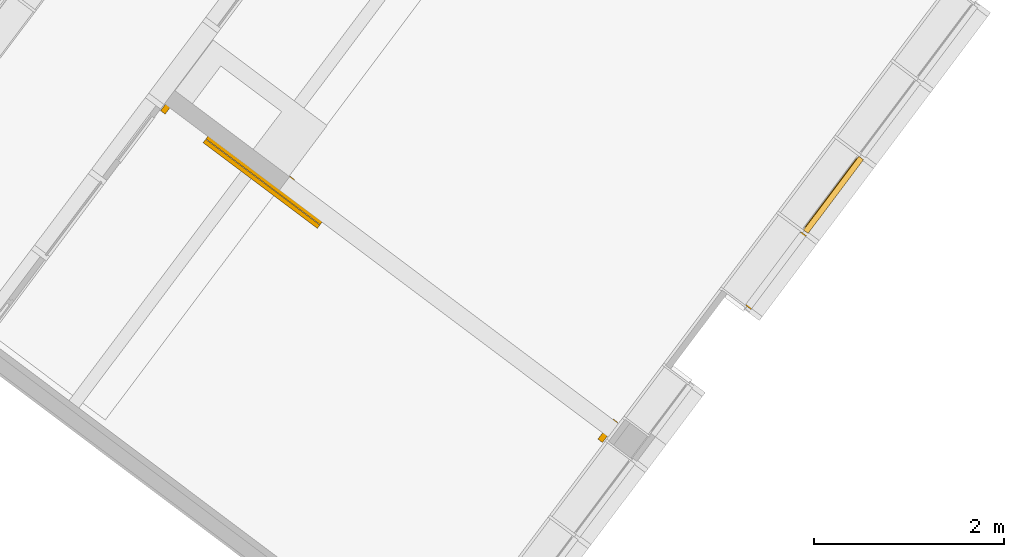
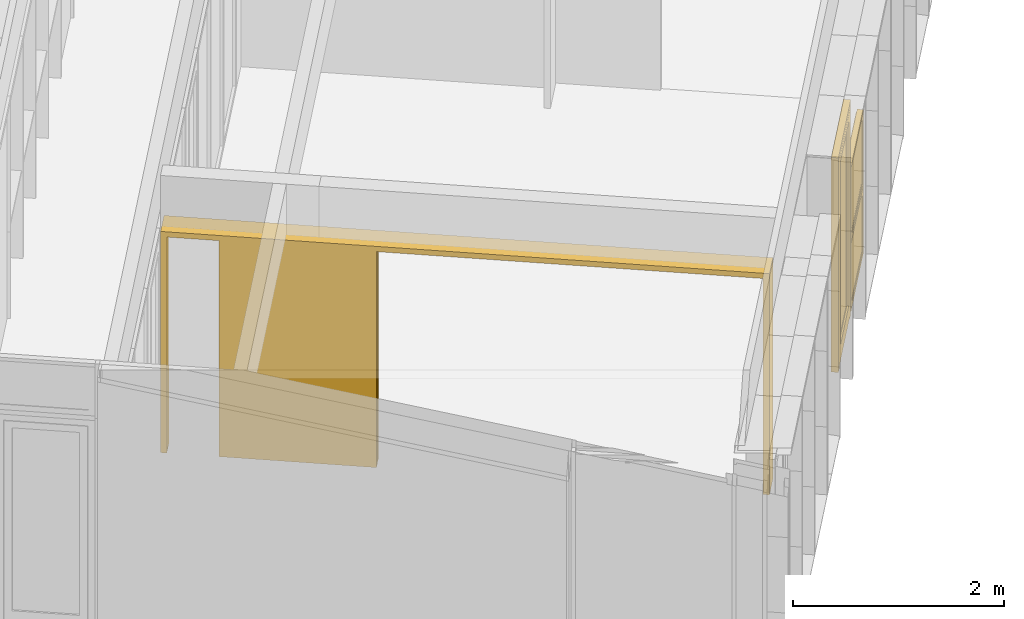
# One storey, part 187 of 243: 2 doors, 2 windows, 1 element without a shape of its own.
"""IFC2X3 building model written with IfcOpenShell, lengths in metres."""

from ifc_helpers import new_model, entity, si_unit, converted_unit, derived_unit, direction, frame, frame_2d, origin, origin_2d_with_axis, place, context, subcontext, project, spatial, polyline, rectangle, outline, extrude, faceted_brep, source, transform, mapped, material, material_list, type_object, type_shapes, element, aggregate, save


model = new_model("IFC2X3")

# Units and contexts
model_context = context("Model", 3, precision=1e-05, world=origin(), true_north=direction((6.123031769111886e-17, 1.0)))
body_context = subcontext(model_context, "Body", "Model", "MODEL_VIEW")
ifc_project = project(units=[si_unit("LENGTHUNIT", "METRE"), si_unit("AREAUNIT", "SQUARE_METRE"), si_unit("VOLUMEUNIT", "CUBIC_METRE"), converted_unit("PLANEANGLEUNIT", "DEGREE", entity("IfcRatioMeasure", 0.017453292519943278), si_unit("PLANEANGLEUNIT", "RADIAN"), dimensions=[0, 0, 0, 0, 0, 0, 0]), si_unit("MASSUNIT", "GRAM", prefix="KILO"), derived_unit("MASSDENSITYUNIT", [(si_unit("MASSUNIT", "GRAM", prefix="KILO"), 1), (si_unit("LENGTHUNIT", "METRE"), -3)]), derived_unit("IONCONCENTRATIONUNIT", [(si_unit("MASSUNIT", "GRAM", prefix="KILO"), 1), (si_unit("LENGTHUNIT", "METRE"), -3)]), derived_unit("MOMENTOFINERTIAUNIT", [(si_unit("LENGTHUNIT", "METRE"), 4)]), si_unit("TIMEUNIT", "SECOND"), si_unit("FREQUENCYUNIT", "HERTZ"), si_unit("THERMODYNAMICTEMPERATUREUNIT", "DEGREE_CELSIUS"), derived_unit("THERMALTRANSMITTANCEUNIT", [(si_unit("MASSUNIT", "GRAM", prefix="KILO"), 1), (si_unit("THERMODYNAMICTEMPERATUREUNIT", "KELVIN"), -1), (si_unit("TIMEUNIT", "SECOND"), -3)]), derived_unit("THERMALCONDUCTANCEUNIT", [(si_unit("MASSUNIT", "GRAM", prefix="KILO"), 1), (si_unit("THERMODYNAMICTEMPERATUREUNIT", "KELVIN"), -1), (si_unit("TIMEUNIT", "SECOND"), -3), (si_unit("LENGTHUNIT", "METRE"), 1)]), derived_unit("VOLUMETRICFLOWRATEUNIT", [(si_unit("LENGTHUNIT", "METRE"), 3), (si_unit("TIMEUNIT", "SECOND"), -1)]), derived_unit("MASSFLOWRATEUNIT", [(si_unit("MASSUNIT", "GRAM", prefix="KILO"), 1), (si_unit("TIMEUNIT", "SECOND"), -1)]), derived_unit("ROTATIONALFREQUENCYUNIT", [(si_unit("TIMEUNIT", "SECOND"), -1)]), si_unit("ELECTRICCURRENTUNIT", "AMPERE"), si_unit("ELECTRICVOLTAGEUNIT", "VOLT"), si_unit("POWERUNIT", "WATT"), si_unit("FORCEUNIT", "NEWTON", prefix="KILO"), si_unit("ILLUMINANCEUNIT", "LUX"), si_unit("LUMINOUSFLUXUNIT", "LUMEN"), si_unit("LUMINOUSINTENSITYUNIT", "CANDELA"), derived_unit("USERDEFINED", [(si_unit("MASSUNIT", "GRAM", prefix="KILO"), -1), (si_unit("LENGTHUNIT", "METRE"), -2), (si_unit("TIMEUNIT", "SECOND"), 3), (si_unit("LUMINOUSFLUXUNIT", "LUMEN"), 1)]), derived_unit("USERDEFINED", [(si_unit("MASSUNIT", "GRAM", prefix="KILO"), 1), (si_unit("TIMEUNIT", "SECOND"), -3), (si_unit("LENGTHUNIT", "METRE"), 3), (si_unit("ELECTRICCURRENTUNIT", "AMPERE"), -2)]), derived_unit("SOUNDPOWERUNIT", [(si_unit("MASSUNIT", "GRAM", prefix="KILO"), 1), (si_unit("TIMEUNIT", "SECOND"), -3), (si_unit("LENGTHUNIT", "METRE"), 2)]), derived_unit("SOUNDPRESSUREUNIT", [(si_unit("MASSUNIT", "GRAM", prefix="KILO"), 1), (si_unit("LENGTHUNIT", "METRE"), -1), (si_unit("TIMEUNIT", "SECOND"), -2)]), derived_unit("LINEARVELOCITYUNIT", [(si_unit("LENGTHUNIT", "METRE"), 1), (si_unit("TIMEUNIT", "SECOND"), -1)]), si_unit("PRESSUREUNIT", "PASCAL"), derived_unit("USERDEFINED", [(si_unit("MASSUNIT", "GRAM", prefix="KILO"), 1), (si_unit("LENGTHUNIT", "METRE"), -2), (si_unit("TIMEUNIT", "SECOND"), -2)]), derived_unit("LINEARFORCEUNIT", [(si_unit("MASSUNIT", "GRAM", prefix="KILO"), 1), (si_unit("TIMEUNIT", "SECOND"), -2)]), derived_unit("PLANARFORCEUNIT", [(si_unit("MASSUNIT", "GRAM", prefix="KILO"), 1), (si_unit("LENGTHUNIT", "METRE"), -1), (si_unit("TIMEUNIT", "SECOND"), -2)]), derived_unit("SPECIFICHEATCAPACITYUNIT", [(si_unit("THERMODYNAMICTEMPERATUREUNIT", "KELVIN"), -1), (si_unit("LENGTHUNIT", "METRE"), 2), (si_unit("TIMEUNIT", "SECOND"), -2)]), derived_unit("HEATINGVALUEUNIT", [(si_unit("LENGTHUNIT", "METRE"), 2), (si_unit("TIMEUNIT", "SECOND"), -2)]), derived_unit("VAPORPERMEABILITYUNIT", [(si_unit("LENGTHUNIT", "METRE"), -1), (si_unit("TIMEUNIT", "SECOND"), 1)]), derived_unit("DYNAMICVISCOSITYUNIT", [(si_unit("MASSUNIT", "GRAM", prefix="KILO"), 1), (si_unit("TIMEUNIT", "SECOND"), -1), (si_unit("LENGTHUNIT", "METRE"), -1)]), derived_unit("THERMALEXPANSIONCOEFFICIENTUNIT", [(si_unit("THERMODYNAMICTEMPERATUREUNIT", "KELVIN"), -1)]), derived_unit("MODULUSOFELASTICITYUNIT", [(si_unit("MASSUNIT", "GRAM", prefix="KILO"), 1), (si_unit("LENGTHUNIT", "METRE"), -1), (si_unit("TIMEUNIT", "SECOND"), -2)]), derived_unit("ISOTHERMALMOISTURECAPACITYUNIT", [(si_unit("LENGTHUNIT", "METRE"), 3), (si_unit("MASSUNIT", "GRAM", prefix="KILO"), -1)]), derived_unit("MOISTUREDIFFUSIVITYUNIT", [(si_unit("TIMEUNIT", "SECOND"), -1), (si_unit("LENGTHUNIT", "METRE"), 2)])], contexts=[model_context])

# Site, building, storey
site_placement = place(None, frame((0.0, 0.0, 235.0), z_axis=(0.0, 0.0, 1.0), x_axis=(-0.7996477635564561, 0.6004693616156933, 0.0)))
site = spatial("IfcSite", under=ifc_project, at=site_placement, Name="Default", CompositionType="ELEMENT")
building_placement = place(site_placement, origin())
building = spatial("IfcBuilding", under=site, at=building_placement, CompositionType="ELEMENT")
storey_placement = place(building_placement, origin())
storey = spatial("IfcBuildingStorey", under=building, at=storey_placement, Name="P0- Escola", CompositionType="ELEMENT", Elevation=0.0)

# Curtain wall, windows, door
curtain_wall_type = type_object("IfcCurtainWallType", Name="Muro cortina:MC- EXT- MC2", PredefinedType="NOTDEFINED")
curtain_wall_placement = place(storey_placement, origin())
curtain_wall = element("IfcCurtainWall", 1, at=curtain_wall_placement, inside=storey, type_object=curtain_wall_type, Name="Muro cortina:MC- EXT- MC2", ObjectType="Muro cortina:MC- EXT- MC2")
ifc_material_1 = material(Name="_Vidre")
ifc_material_2 = material(Name="_Alumini- T1- Perfil")
ifc_material_list_1 = material_list([ifc_material_1, ifc_material_2])
window_style_1 = type_object("IfcWindowStyle", Name="MC- Alu- Conjunt vidre fix- 62x60 cm:MC- Alu- Conjunt vidre fix- 62x60 cm", ConstructionType="NOTDEFINED", OperationType="NOTDEFINED", ParameterTakesPrecedence=False, Sizeable=False, material=ifc_material_list_1)
shared_shape_1 = source(origin(), body_context, "Body", "Brep", [
    faceted_brep([(0.4361932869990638, -0.007600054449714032, 0.048806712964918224), (0.4361932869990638, -0.03160022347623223, 0.048806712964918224), (-0.4361932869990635, -0.03160022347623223, 0.048806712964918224), (-0.4361932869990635, -0.007600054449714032, 0.048806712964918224), (0.4361932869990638, -0.007600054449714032, 0.7387000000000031), (-0.4361932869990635, -0.007600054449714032, 0.7387000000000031), (-0.4361932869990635, -0.03160022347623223, 0.7387000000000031), (0.4361932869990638, -0.03160022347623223, 0.7387000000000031)], [[[0, 1, 2, 3]], [[4, 0, 3, 5]], [[5, 3, 2, 6]], [[6, 2, 1, 7]], [[7, 1, 0, 4]], [[4, 5, 6, 7]]]),
    faceted_brep([(0.48499999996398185, -0.05999999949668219, 0.7877000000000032), (0.48499999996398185, -0.05999999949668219, 0.0), (0.48499999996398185, 0.0, 0.0), (0.48499999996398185, 0.0, 0.787700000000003), (-0.48499999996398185, 0.0, 0.7877000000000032), (-0.48499999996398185, 0.0, 0.0), (0.4221931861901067, 0.0, 0.7248931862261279), (-0.42219318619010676, 0.0, 0.724893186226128), (-0.4221931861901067, 0.0, 0.0628068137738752), (0.4221931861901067, 0.0, 0.06280681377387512), (-0.48499999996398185, -0.05999999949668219, 0.0), (-0.48499999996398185, -0.05999999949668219, 0.7877000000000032), (-0.42219603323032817, -0.05999999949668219, 0.7248960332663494), (0.42219603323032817, -0.05999999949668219, 0.7248960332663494), (0.42219603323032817, -0.05999999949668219, 0.0628039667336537), (-0.42219603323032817, -0.05999999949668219, 0.0628039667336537), (0.4221960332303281, -0.03160022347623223, 0.7248960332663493), (0.42219603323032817, -0.03160022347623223, 0.0628039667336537), (-0.42219603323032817, -0.03160022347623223, 0.06280396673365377), (-0.42219603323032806, -0.03160022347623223, 0.7248960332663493), (-0.43619328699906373, -0.03160022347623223, 0.738893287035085), (0.43619328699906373, -0.03160022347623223, 0.738893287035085), (0.43619328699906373, -0.03160022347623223, 0.048806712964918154), (-0.43619328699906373, -0.03160022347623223, 0.04880671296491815), (0.43619328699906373, -0.007600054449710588, 0.738893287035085), (0.43619328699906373, -0.007600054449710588, 0.04880671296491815), (-0.43619328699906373, -0.007600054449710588, 0.048806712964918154), (-0.43619328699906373, -0.007600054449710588, 0.738893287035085), (-0.42219318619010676, -0.007600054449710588, 0.724893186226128), (0.42219318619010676, -0.007600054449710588, 0.724893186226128), (0.42219318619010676, -0.007600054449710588, 0.06280681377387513), (-0.42219318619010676, -0.007600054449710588, 0.06280681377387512)], [[[0, 1, 2, 3]], [[4, 3, 2, 5], [6, 7, 8, 9]], [[1, 10, 5, 2]], [[0, 11, 10, 1], [12, 13, 14, 15]], [[16, 17, 14, 13]], [[17, 18, 15, 14]], [[16, 19, 18, 17], [20, 21, 22, 23]], [[24, 25, 22, 21]], [[25, 26, 23, 22]], [[24, 27, 26, 25], [28, 29, 30, 31]], [[6, 9, 30, 29]], [[9, 8, 31, 30]], [[10, 11, 4, 5]], [[18, 19, 12, 15]], [[26, 27, 20, 23]], [[8, 7, 28, 31]], [[11, 0, 3, 4]], [[19, 16, 13, 12]], [[27, 24, 21, 20]], [[7, 6, 29, 28]]], outer=[[True], [True, False], [True], [True, False], [True], [True], [False, True], [True], [True], [True, False], [True], [True], [True], [True], [True], [True], [True], [True], [True], [True]]),
])
type_shapes(window_style_1, [shared_shape_1])
window_1_placement = place(curtain_wall_placement, frame((53.74514768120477, -26.915191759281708, 0.03229999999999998), z_axis=(0.0, 0.0, 1.0), x_axis=(0.0, 1.0, 0.0)))
window_1 = element("IfcWindow", 2, at=window_1_placement, type_object=window_style_1, material=ifc_material_list_1, Name="MC- Alu- Conjunt vidre fix- 62x60 cm:MC- Alu- Conjunt vidre fix- 62x60 cm", ObjectType="MC- Alu- Conjunt vidre fix- 62x60 cm:MC- Alu- Conjunt vidre fix- 62x60 cm", OverallHeight=0.7877000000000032, OverallWidth=0.9699999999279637, context=body_context, shape_type="MappedRepresentation", body=[
    mapped(shared_shape_1, transform((0.0, 0.0, 0.0), scale=1.0)),
])
ifc_material_list_2 = material_list([ifc_material_2, ifc_material_1])
door_style_1 = type_object("IfcDoorStyle", Name="MC- Alu- Conjunt porta- 70x60 cm- +15cm- obertura int:MC- Alu- Conjunt porta- 70x60 cm- +15cm- obertura int", ConstructionType="NOTDEFINED", OperationType="NOTDEFINED", ParameterTakesPrecedence=False, Sizeable=False, material=ifc_material_list_2)
shared_shape_2 = source(origin(), body_context, "Body", "Brep", [
    faceted_brep([(0.411699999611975, 0.0, 0.024000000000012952), (0.411699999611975, -0.0656997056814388, 0.024000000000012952), (-0.41169999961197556, -0.06569970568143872, 0.024000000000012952), (-0.41169999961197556, 0.0, 0.024000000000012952), (0.41169999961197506, -0.0656997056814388, 2.410449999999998), (0.41169999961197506, 0.0, 2.410449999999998), (-0.41169999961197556, -0.06569970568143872, 2.410449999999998), (-0.4356999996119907, -0.06569970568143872, 0.0), (-0.4356999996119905, -0.06569970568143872, 2.4344500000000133), (0.4356999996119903, -0.06569970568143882, 2.4344500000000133), (0.4356999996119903, -0.0656997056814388, 0.0), (-0.41169999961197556, 0.0, 2.410449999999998), (0.33509999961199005, 0.0, 2.333850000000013), (-0.33509999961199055, 0.0, 2.3338500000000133), (-0.33509999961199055, 0.0, 0.20400000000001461), (0.33509999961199, 0.0, 0.20400000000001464), (-0.4356999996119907, -0.06999970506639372, 2.4344500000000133), (-0.4356999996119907, -0.0699997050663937, 0.0), (0.4356999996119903, -0.06999970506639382, 0.0), (0.43569999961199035, -0.06999970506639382, 2.4344500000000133), (-0.33509999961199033, -0.06999970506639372, 2.333850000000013), (0.33509999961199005, -0.06999970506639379, 2.333850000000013), (0.33509999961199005, -0.0699997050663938, 0.20400000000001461), (-0.33509999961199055, -0.06999970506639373, 0.20400000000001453), (-0.3350999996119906, -0.06449970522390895, 2.333850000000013), (-0.3350999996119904, -0.06449970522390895, 0.20400000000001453), (0.33509999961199, -0.06449970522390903, 0.20400000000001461), (0.33509999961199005, -0.06449970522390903, 2.333850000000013), (-0.36010000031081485, -0.06449970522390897, 2.3588500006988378), (0.3601000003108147, -0.06449970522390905, 2.3588500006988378), (0.3601000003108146, -0.06449970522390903, 0.17899999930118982), (-0.36010000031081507, -0.06449970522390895, 0.17899999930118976), (-0.3601000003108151, -0.018999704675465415, 2.3588500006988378), (-0.36010000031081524, -0.01899970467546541, 0.17899999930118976), (0.36010000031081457, -0.01899970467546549, 0.17899999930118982), (0.36010000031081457, -0.01899970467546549, 2.3588500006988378), (-0.33509999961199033, -0.018999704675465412, 2.333850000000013), (0.33509999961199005, -0.018999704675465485, 2.333850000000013), (0.33509999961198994, -0.01899970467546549, 0.20400000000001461), (-0.33509999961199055, -0.018999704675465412, 0.20400000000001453)], [[[0, 1, 2, 3]], [[4, 1, 0, 5]], [[2, 1, 4, 6], [7, 8, 9, 10]], [[2, 6, 11, 3]], [[12, 13, 14, 15], [11, 5, 0, 3]], [[16, 8, 7, 17]], [[10, 18, 17, 7]], [[18, 19, 16, 17], [20, 21, 22, 23]], [[24, 20, 23, 25]], [[23, 22, 26, 25]], [[27, 24, 25, 26], [28, 29, 30, 31]], [[32, 28, 31, 33]], [[33, 31, 30, 34]], [[35, 32, 33, 34], [36, 37, 38, 39]], [[13, 36, 39, 14]], [[39, 38, 15, 14]], [[9, 19, 18, 10]], [[21, 27, 26, 22]], [[29, 35, 34, 30]], [[37, 12, 15, 38]], [[19, 9, 8, 16]], [[27, 21, 20, 24]], [[35, 29, 28, 32]], [[12, 37, 36, 13]], [[4, 5, 11, 6]]], outer=[[True], [True], [False, True], [True], [False, True], [True], [True], [True, False], [True], [True], [False, True], [True], [True], [True, False], [True], [True], [True], [True], [True], [True], [True], [True], [True], [True], [True]]),
    faceted_brep([(-0.36010000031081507, -0.06089980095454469, 0.17899999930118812), (-0.36010000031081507, -0.02889980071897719, 0.17899999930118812), (0.3601000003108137, -0.028899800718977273, 0.17899999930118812), (0.3601000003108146, -0.06089980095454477, 0.17899999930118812), (-0.36010000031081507, -0.06089980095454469, 2.3588500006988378), (-0.36010000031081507, -0.028899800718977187, 2.3588500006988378), (0.3601000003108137, -0.028899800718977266, 2.3588500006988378), (0.3601000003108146, -0.06089980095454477, 2.3588500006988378)], [[[0, 1, 2, 3]], [[4, 5, 1, 0]], [[5, 6, 2, 1]], [[6, 7, 3, 2]], [[7, 4, 0, 3]], [[4, 7, 6, 5]]]),
    faceted_brep([(0.4849999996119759, -0.06999999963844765, 0.0), (0.44369999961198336, -0.06999999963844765, 0.0), (0.44369999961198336, -0.059699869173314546, 0.0), (0.4331999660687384, -0.059699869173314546, 0.0), (0.4331999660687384, -0.008800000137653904, 0.0), (0.4176999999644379, -0.008800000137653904, 0.0), (0.4176999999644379, 0.0, 0.0), (0.4849999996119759, 0.0, 0.0), (0.4849999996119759, -0.06999999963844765, 2.4837499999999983), (-0.4849999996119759, -0.06999999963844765, 2.4837499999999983), (-0.4849999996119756, -0.06999999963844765, 0.0), (-0.4436999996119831, -0.06999999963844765, 0.0), (-0.4436999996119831, -0.06999999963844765, 2.442450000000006), (0.44369999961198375, -0.06999999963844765, 2.4424500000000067), (0.44369999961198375, -0.059699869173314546, 2.4424500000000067), (-0.44369999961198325, -0.059699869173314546, 2.442450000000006), (-0.44369999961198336, -0.059699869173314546, 0.0), (-0.4331999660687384, -0.059699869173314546, 0.0), (-0.4331999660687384, -0.059699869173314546, 2.4319499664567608), (0.4331999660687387, -0.059699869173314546, 2.431949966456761), (0.4331999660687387, -0.008800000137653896, 2.431949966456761), (-0.4331999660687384, -0.008800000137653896, 2.4319499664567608), (-0.4331999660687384, -0.008800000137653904, 0.0), (-0.4176999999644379, -0.008800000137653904, 0.0), (-0.4176999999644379, -0.008800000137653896, 2.4164500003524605), (0.417699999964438, -0.008800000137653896, 2.4164500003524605), (0.417699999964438, 0.0, 2.4164500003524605), (-0.4176999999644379, 0.0, 2.4164500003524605), (-0.4176999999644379, 0.0, 0.0), (-0.4849999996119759, 0.0, 0.0), (-0.4849999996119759, 0.0, 2.4837499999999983), (0.48499999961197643, 0.0, 2.4837499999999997)], [[[0, 1, 2, 3, 4, 5, 6, 7]], [[1, 0, 8, 9, 10, 11, 12, 13]], [[2, 1, 13, 14]], [[3, 2, 14, 15, 16, 17, 18, 19]], [[4, 3, 19, 20]], [[5, 4, 20, 21, 22, 23, 24, 25]], [[6, 5, 25, 26]], [[7, 6, 26, 27, 28, 29, 30, 31]], [[0, 7, 31, 8]], [[10, 29, 28, 23, 22, 17, 16, 11]], [[9, 30, 29, 10]], [[27, 24, 23, 28]], [[21, 18, 17, 22]], [[15, 12, 11, 16]], [[14, 13, 12, 15]], [[20, 19, 18, 21]], [[26, 25, 24, 27]], [[8, 31, 30, 9]]]),
])
type_shapes(door_style_1, [shared_shape_2])
door_1_placement = place(curtain_wall_placement, frame((53.74514768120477, -25.91519175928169, 0.020000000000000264), z_axis=(0.0, 0.0, 1.0), x_axis=(0.0, 1.0, 0.0)))
door_1 = element("IfcDoor", 3, at=door_1_placement, type_object=door_style_1, material=ifc_material_list_2, Name="MC- Alu- Conjunt porta- 70x60 cm- +15cm- obertura int:MC- Alu- Conjunt porta- 70x60 cm- +15cm- obertura int", ObjectType="MC- Alu- Conjunt porta- 70x60 cm- +15cm- obertura int:MC- Alu- Conjunt porta- 70x60 cm- +15cm- obertura int", OverallHeight=2.483750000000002, OverallWidth=0.9699999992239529, context=body_context, shape_type="MappedRepresentation", body=[
    mapped(shared_shape_2, transform((0.0, 0.0, 0.0), scale=1.0)),
])
window_style_2 = type_object("IfcWindowStyle", Name="MC- Alu- Conjunt finestra basculant- 68x68 cm:MC- Alu- Conjunt finestra basculant- 68x68 cm", ConstructionType="NOTDEFINED", OperationType="NOTDEFINED", ParameterTakesPrecedence=False, Sizeable=False, material=ifc_material_list_1)
shared_shape_3 = source(origin(), body_context, "Body", "Brep", [
    faceted_brep([(0.43291170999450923, -0.03559830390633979, 0.051999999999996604), (-0.43291170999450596, -0.03559830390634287, 0.051999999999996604), (-0.43291170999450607, -0.011598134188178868, 0.051999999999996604), (0.43291170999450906, -0.011598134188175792, 0.051999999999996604), (0.43291170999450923, -0.035598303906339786, 0.8228027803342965), (0.43291170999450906, -0.011598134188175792, 0.8228027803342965), (-0.43291170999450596, -0.011598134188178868, 0.8228027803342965), (-0.43291170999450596, -0.03559830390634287, 0.8228027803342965)], [[[0, 1, 2, 3]], [[4, 0, 3, 5]], [[5, 3, 2, 6]], [[6, 2, 1, 7]], [[7, 1, 0, 4]], [[4, 5, 6, 7]]]),
    faceted_brep([(-0.4172108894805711, -0.009998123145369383, 0.8071019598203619), (-0.4172108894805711, -0.00999812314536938, 0.06789804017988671), (-0.4172108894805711, -0.007998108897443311, 0.06789804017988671), (-0.4172108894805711, -0.007998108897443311, 0.8071019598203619), (-0.44610892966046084, -0.007998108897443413, 0.8360000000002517), (0.44610892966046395, -0.007998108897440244, 0.8360000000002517), (0.44610892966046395, -0.007998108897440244, 0.03899999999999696), (-0.44610892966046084, -0.007998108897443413, 0.03899999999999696), (0.4172108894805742, -0.007998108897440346, 0.8071019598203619), (0.4172108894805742, -0.007998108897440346, 0.06789804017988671), (0.4172108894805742, -0.009998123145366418, 0.06789804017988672), (0.4172108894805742, -0.009998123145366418, 0.8071019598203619), (0.4329117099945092, -0.00999812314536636, 0.8228027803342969), (-0.43291170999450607, -0.009998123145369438, 0.8228027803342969), (-0.43291170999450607, -0.009998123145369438, 0.05219721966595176), (0.4329117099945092, -0.00999812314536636, 0.052197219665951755), (-0.4329117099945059, -0.04079986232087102, 0.8228027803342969), (-0.4329117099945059, -0.04079986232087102, 0.052197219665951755), (0.4329117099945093, -0.04079986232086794, 0.05219721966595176), (0.4329117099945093, -0.04079986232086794, 0.8228027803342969), (0.41721088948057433, -0.040799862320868, 0.8071019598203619), (-0.41721088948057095, -0.04079986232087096, 0.8071019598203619), (-0.41721088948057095, -0.04079986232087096, 0.06789804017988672), (0.41721088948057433, -0.040799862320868, 0.06789804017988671), (-0.4172108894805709, -0.06800005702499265, 0.8071019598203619), (-0.4172108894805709, -0.06800005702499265, 0.06789804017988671), (0.4172108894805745, -0.0680000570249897, 0.06789804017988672), (0.4172108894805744, -0.0680000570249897, 0.8071019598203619), (0.4636128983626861, -0.06800005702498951, 0.8535039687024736), (-0.4636128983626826, -0.06800005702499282, 0.8535039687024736), (-0.4636128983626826, -0.06800005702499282, 0.021496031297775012), (0.4636128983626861, -0.06800005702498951, 0.021496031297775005), (-0.4636128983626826, -0.0645000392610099, 0.8535039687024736), (-0.4636128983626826, -0.06450003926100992, 0.021496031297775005), (0.4636128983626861, -0.06450003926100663, 0.021496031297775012), (0.4636128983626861, -0.06450003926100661, 0.8535039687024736), (0.44610892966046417, -0.06450003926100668, 0.8360000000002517), (-0.4461089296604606, -0.06450003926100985, 0.8360000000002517), (-0.4461089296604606, -0.06450003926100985, 0.03899999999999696), (0.44610892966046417, -0.06450003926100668, 0.038999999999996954)], [[[0, 1, 2, 3]], [[4, 5, 6, 7], [8, 3, 2, 9]], [[1, 10, 9, 2]], [[0, 11, 10, 1], [12, 13, 14, 15]], [[16, 17, 14, 13]], [[17, 18, 15, 14]], [[16, 19, 18, 17], [20, 21, 22, 23]], [[24, 25, 22, 21]], [[25, 26, 23, 22]], [[24, 27, 26, 25], [28, 29, 30, 31]], [[32, 33, 30, 29]], [[33, 34, 31, 30]], [[32, 35, 34, 33], [36, 37, 38, 39]], [[4, 7, 38, 37]], [[7, 6, 39, 38]], [[10, 11, 8, 9]], [[18, 19, 12, 15]], [[26, 27, 20, 23]], [[34, 35, 28, 31]], [[6, 5, 36, 39]], [[11, 0, 3, 8]], [[19, 16, 13, 12]], [[27, 24, 21, 20]], [[35, 32, 29, 28]], [[5, 4, 37, 36]]], outer=[[True], [True, False], [True], [False, True], [True], [True], [True, False], [True], [True], [False, True], [True], [True], [True, False], [True], [True], [True], [True], [True], [True], [True], [True], [True], [True], [True], [True]]),
    faceted_brep([(0.42219318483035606, 0.0, 0.8121931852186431), (0.42219318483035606, 0.0, 0.06280681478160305), (0.42219318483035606, -0.0040000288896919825, 0.06280681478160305), (0.42219318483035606, -0.0040000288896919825, 0.8121931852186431), (-0.42219318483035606, -0.0040000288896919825, 0.8121931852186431), (-0.42219318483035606, -0.0040000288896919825, 0.06280681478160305), (0.4575998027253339, -0.0040000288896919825, 0.8475998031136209), (-0.4575998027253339, -0.0040000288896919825, 0.8475998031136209), (-0.4575998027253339, -0.0040000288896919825, 0.027400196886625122), (0.4575998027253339, -0.0040000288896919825, 0.02740019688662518), (-0.42219318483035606, 0.0, 0.06280681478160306), (-0.42219318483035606, 0.0, 0.8121931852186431), (-0.48499999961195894, 0.0, 0.875000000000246), (0.48499999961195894, 0.0, 0.875000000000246), (0.48499999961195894, 0.0, 0.0), (-0.48499999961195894, 0.0, 0.0), (0.48499999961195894, -0.05999999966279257, 0.875000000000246), (0.48499999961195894, -0.05999999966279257, 0.0), (-0.48499999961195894, -0.05999999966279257, 0.0), (-0.48499999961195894, -0.05999999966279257, 0.875000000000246), (-0.4575998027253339, -0.05999999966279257, 0.8475998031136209), (0.4575998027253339, -0.05999999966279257, 0.8475998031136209), (0.4575998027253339, -0.05999999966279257, 0.027400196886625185), (-0.4575998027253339, -0.05999999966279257, 0.02740019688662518)], [[[0, 1, 2, 3]], [[4, 3, 2, 5], [6, 7, 8, 9]], [[1, 10, 5, 2]], [[0, 11, 10, 1], [12, 13, 14, 15]], [[16, 17, 14, 13]], [[17, 18, 15, 14]], [[16, 19, 18, 17], [20, 21, 22, 23]], [[6, 9, 22, 21]], [[9, 8, 23, 22]], [[10, 11, 4, 5]], [[18, 19, 12, 15]], [[8, 7, 20, 23]], [[11, 0, 3, 4]], [[19, 16, 13, 12]], [[7, 6, 21, 20]]], outer=[[True], [False, True], [True], [False, True], [True], [True], [True, False], [True], [True], [True], [True], [True], [True], [True], [True]]),
])
type_shapes(window_style_2, [shared_shape_3])
window_2_placement = place(curtain_wall_placement, frame((53.74514768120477, -26.915191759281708, 0.8200000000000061), z_axis=(0.0, 0.0, 1.0), x_axis=(0.0, 1.0, 0.0)))
window_2 = element("IfcWindow", 4, at=window_2_placement, type_object=window_style_2, material=ifc_material_list_1, Name="MC- Alu- Conjunt finestra basculant- 68x68 cm:MC- Alu- Conjunt finestra basculant- 68x68 cm", ObjectType="MC- Alu- Conjunt finestra basculant- 68x68 cm:MC- Alu- Conjunt finestra basculant- 68x68 cm", OverallHeight=0.8750000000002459, OverallWidth=0.9699999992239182, context=body_context, shape_type="MappedRepresentation", body=[
    mapped(shared_shape_3, transform((0.0, 0.0, 0.0), scale=1.0)),
])
aggregate(curtain_wall, [door_1, window_1, window_2])

# Door
ifc_material_3 = material(Name="_Fusta massisa- T1")
door_style_2 = type_object("IfcDoorStyle", Name="FUS- Porta fusta- Corredera- 3 fulles:FUS- Porta fusta- Corredera- 3 fulles", ConstructionType="NOTDEFINED", OperationType="NOTDEFINED", ParameterTakesPrecedence=False, Sizeable=False, material=ifc_material_3)
shared_shape_4 = source(origin(), body_context, "Body", "SweptSolid", [
    extrude(rectangle(XDim=1.5024455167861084, YDim=0.04499999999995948, at=origin_2d_with_axis()), frame((4.503943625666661, 0.14449999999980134, 0.0)), (0.0, 0.0, 1.0), 2.500000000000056),
    extrude(rectangle(XDim=0.04499999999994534, YDim=1.5024455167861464, at=frame_2d((-1.734723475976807e-17, 0.0), x_axis=(1.0, 0.0))), frame((4.503943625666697, 0.2445000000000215, 0.0), z_axis=(0.0, 0.0, 1.0), x_axis=(0.0, -1.0, 0.0)), (0.0, 0.0, 1.0), 2.500000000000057),
    extrude(rectangle(XDim=0.044999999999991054, YDim=1.5024455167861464, at=origin_2d_with_axis()), frame((4.503943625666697, 0.19450000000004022, 0.0), z_axis=(0.0, 0.0, 1.0), x_axis=(0.0, -1.0, 0.0)), (0.0, 0.0, 1.0), 2.5000000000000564),
    extrude(rectangle(XDim=0.15000000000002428, YDim=0.060000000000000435, at=frame_2d((1.3877787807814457e-17, -5.412337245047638e-16), x_axis=(1.0, 0.0))), frame((5.785166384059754, 0.19199999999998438, 0.0), z_axis=(0.0, 0.0, 1.0), x_axis=(0.0, 1.0, 0.0)), (0.0, 0.0, 1.0), 2.559999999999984),
    extrude(rectangle(XDim=0.059999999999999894, YDim=0.1170000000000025, at=frame_2d((2.706168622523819e-16, 0.0), x_axis=(1.0, 0.0))), frame((4.28272086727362, 0.05849999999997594, 0.0), z_axis=(0.0, 0.0, 1.0), x_axis=(-1.0, 0.0, 0.0)), (0.0, 0.0, 1.0), 2.559999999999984),
    extrude(outline(polyline([(-1.6866666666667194, -1.9583887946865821), (0.8733333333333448, -1.9583887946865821), (0.8733333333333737, 3.856777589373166), (0.8133333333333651, 3.856777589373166), (0.813333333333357, -1.8983887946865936), (-1.6866666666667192, -1.8983887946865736), (-1.6866666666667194, -1.9583887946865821)])), frame((1.9583887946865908, 0.0, 1.6866666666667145), z_axis=(0.0, 1.0, 0.0), x_axis=(0.0, 0.0, 1.0)), (0.0, 0.0, 1.0), 0.26700000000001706),
])
type_shapes(door_style_2, [shared_shape_4])
door_2_placement = place(storey_placement, frame((54.15417144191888, -23.63868997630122, 0.0)))
element("IfcDoor", 5, at=door_2_placement, inside=storey, type_object=door_style_2, material=ifc_material_3, Name="FUS- Porta fusta- Corredera- 3 fulles:FUS- Porta fusta- Corredera- 3 fulles", ObjectType="FUS- Porta fusta- Corredera- 3 fulles:FUS- Porta fusta- Corredera- 3 fulles", OverallHeight=2.5600000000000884, OverallWidth=5.815166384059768, context=body_context, shape_type="MappedRepresentation", body=[
    mapped(shared_shape_4, transform((0.0, 0.0, 0.0), scale=1.0)),
])

save(model, "model.ifc")
